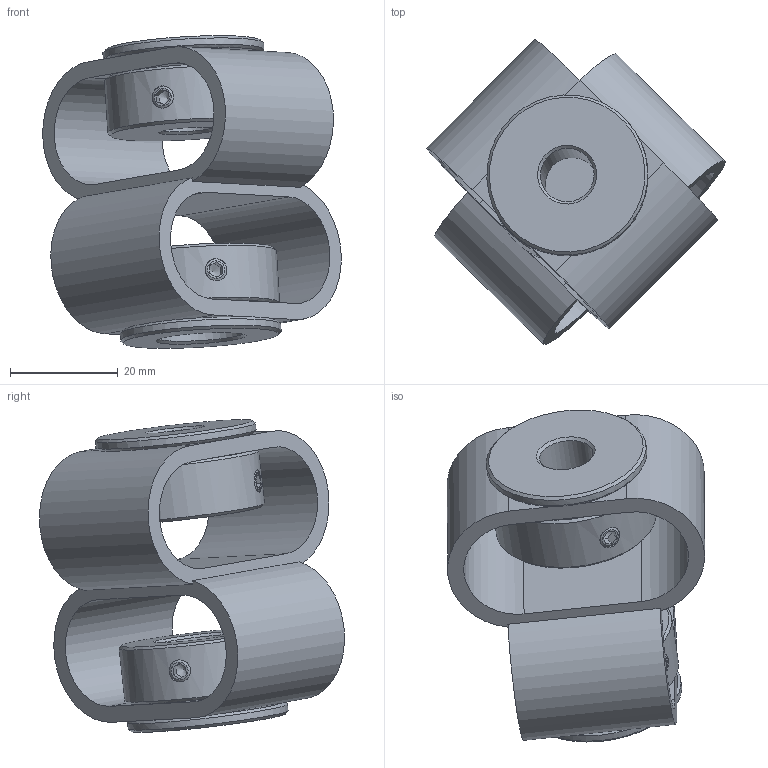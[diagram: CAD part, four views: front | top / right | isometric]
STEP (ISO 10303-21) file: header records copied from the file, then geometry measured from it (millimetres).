
FILE_DESCRIPTION(/* description */ (''),/* implementation_level */ '2;1');
FILE_NAME(/* name */ 'E:\ABP_bauteile\Doppelschlaufenkupplung\DKPS_5658\Doppelschlaufenkupplung_DKPS_5658_10_16.stp',/* time_stamp */ '2015-03-13T11:20:39+01:00',/* author */ ('Rob'),/* organization */ (''),/* preprocessor_version */ 'ST-DEVELOPER v15.6',/* originating_system */ 'Autodesk Inventor 2015',/* authorisation */ '');
FILE_SCHEMA (('CONFIG_CONTROL_DESIGN'));
Length unit declared in the file: millimetre
Products named in the file (1): Bauteil31
Bounding box: 55.53 x 56.74 x 58.16 mm (x, y, z)
Volume: 32068.5 mm3; surface area: 18125 mm2
Topology: 1 solids, 1 shells, 146 faces, 366 edges, 220 vertices
Faces by surface type: plane 84, cone 34, cylinder 28
Full cylindrical faces by diameter (mm): 4.134 x8, 10 x1, 16 x1, 21.5 x2, 23 x4, 30 x4
Entity records: 4186 total; most frequent: CARTESIAN_POINT 1059, DIRECTION 662, ORIENTED_EDGE 568, EDGE_CURVE 284, AXIS2_PLACEMENT_3D 265, EDGE_LOOP 214, VERTEX_POINT 184, FACE_OUTER_BOUND 146
